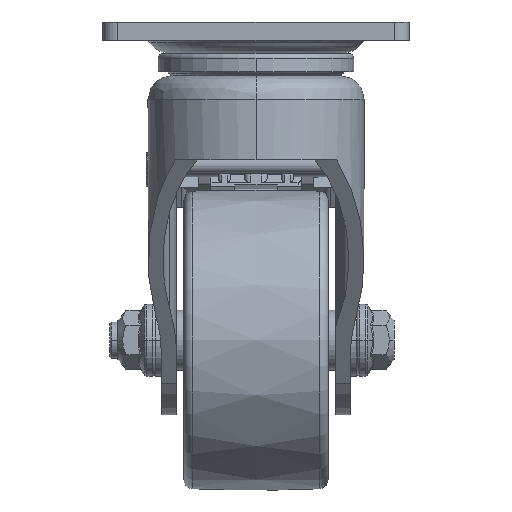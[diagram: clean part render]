
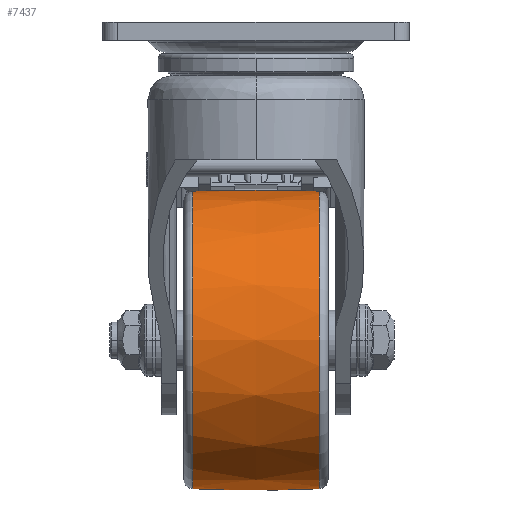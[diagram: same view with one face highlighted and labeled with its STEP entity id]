
A CAD part, left-side view. The second image highlights one B-rep face of the part: STEP entity #7437.
In plain terms, the highlighted free-form (B-spline) face has degree [2, 2] with [3, 9] control points.
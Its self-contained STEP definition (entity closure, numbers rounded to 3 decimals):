
#7364=CARTESIAN_POINT('',(101.278,-34.048,1.127));
#7365=CARTESIAN_POINT('',(101.278,-34.942,-20.));
#7366=CARTESIAN_POINT('',(101.278,-34.048,-41.127));
#7367=CARTESIAN_POINT('',(150.831,-34.048,1.127));
#7368=CARTESIAN_POINT('',(151.725,-34.942,-20.));
#7369=CARTESIAN_POINT('',(150.831,-34.048,-41.127));
#7370=CARTESIAN_POINT('',(150.831,15.505,1.127));
#7371=CARTESIAN_POINT('',(151.725,15.505,-20.));
#7372=CARTESIAN_POINT('',(150.831,15.505,-41.127));
#7373=CARTESIAN_POINT('',(150.831,65.059,1.127));
#7374=CARTESIAN_POINT('',(151.725,65.952,-20.));
#7375=CARTESIAN_POINT('',(150.831,65.059,-41.127));
#7376=CARTESIAN_POINT('',(101.278,65.059,1.127));
#7377=CARTESIAN_POINT('',(101.278,65.952,-20.));
#7378=CARTESIAN_POINT('',(101.278,65.059,-41.127));
#7379=CARTESIAN_POINT('',(51.724,65.059,1.127));
#7380=CARTESIAN_POINT('',(50.831,65.952,-20.));
#7381=CARTESIAN_POINT('',(51.724,65.059,-41.127));
#7382=CARTESIAN_POINT('',(51.724,15.505,1.127));
#7383=CARTESIAN_POINT('',(50.831,15.505,-20.));
#7384=CARTESIAN_POINT('',(51.724,15.505,-41.127));
#7385=CARTESIAN_POINT('',(51.724,-34.048,1.127));
#7386=CARTESIAN_POINT('',(50.831,-34.942,-20.));
#7387=CARTESIAN_POINT('',(51.724,-34.048,-41.127));
#7388=CARTESIAN_POINT('',(101.278,-34.048,1.127));
#7389=CARTESIAN_POINT('',(101.278,-34.942,-20.));
#7390=CARTESIAN_POINT('',(101.278,-34.048,-41.127));
#7398=(BOUNDED_SURFACE()B_SPLINE_SURFACE(2,2,((#7364,#7367,#7370,#7373,#7376,#7379,#7382,#7385,#7388),(#7365,#7368,#7371,#7374,#7377,#7380,#7383,#7386,#7389),(#7366,#7369,#7372,#7375,#7378,#7381,#7384,#7387,#7390)),.UNSPECIFIED.,.F.,.T.,.U.)B_SPLINE_SURFACE_WITH_KNOTS((3,3),(3,2,2,2,3),(-0.042,0.042),(0.0,1.571,3.142,4.712,6.283),.UNSPECIFIED.)GEOMETRIC_REPRESENTATION_ITEM()RATIONAL_B_SPLINE_SURFACE(((1.0,0.707,1.0,0.707,1.0,0.707,1.0,0.707,1.0),(0.999,0.706,0.999,0.706,0.999,0.706,0.999,0.706,0.999),(1.0,0.707,1.0,0.707,1.0,0.707,1.0,0.707,1.0)))REPRESENTATION_ITEM('')SURFACE());
#7399=CARTESIAN_POINT('',(101.278,65.059,-41.127));
#7400=VERTEX_POINT('',#7399);
#7401=CARTESIAN_POINT('',(101.278,65.059,1.127));
#7402=VERTEX_POINT('',#7401);
#7403=CARTESIAN_POINT('',(101.278,-434.495,-20.));
#7404=DIRECTION('',(1.0,0.0,0.0));
#7405=DIRECTION('',(0.0,1.0,0.0));
#7406=AXIS2_PLACEMENT_3D('',#7403,#7404,#7405);
#7407=CIRCLE('',#7406,500.0);
#7408=EDGE_CURVE('',#7400,#7402,#7407,.T.);
#7409=ORIENTED_EDGE('',*,*,#7408,.F.);
#7410=CARTESIAN_POINT('',(101.278,-34.048,-41.127));
#7411=VERTEX_POINT('',#7410);
#7412=CARTESIAN_POINT('',(101.278,15.505,-41.127));
#7413=DIRECTION('',(0.0,0.0,-1.0));
#7414=DIRECTION('',(0.0,1.0,0.0));
#7415=AXIS2_PLACEMENT_3D('',#7412,#7413,#7414);
#7416=CIRCLE('',#7415,49.553);
#7417=EDGE_CURVE('',#7411,#7400,#7416,.T.);
#7418=ORIENTED_EDGE('',*,*,#7417,.F.);
#7419=CARTESIAN_POINT('',(101.278,-34.048,1.127));
#7420=VERTEX_POINT('',#7419);
#7421=CARTESIAN_POINT('',(101.278,465.505,-20.));
#7422=DIRECTION('',(-1.0,0.0,0.0));
#7423=DIRECTION('',(0.0,-1.0,0.0));
#7424=AXIS2_PLACEMENT_3D('',#7421,#7422,#7423);
#7425=CIRCLE('',#7424,500.0);
#7426=EDGE_CURVE('',#7411,#7420,#7425,.T.);
#7427=ORIENTED_EDGE('',*,*,#7426,.T.);
#7428=CARTESIAN_POINT('',(101.278,15.505,1.127));
#7429=DIRECTION('',(0.0,0.0,-1.0));
#7430=DIRECTION('',(0.0,1.0,0.0));
#7431=AXIS2_PLACEMENT_3D('',#7428,#7429,#7430);
#7432=CIRCLE('',#7431,49.553);
#7433=EDGE_CURVE('',#7420,#7402,#7432,.T.);
#7434=ORIENTED_EDGE('',*,*,#7433,.T.);
#7435=EDGE_LOOP('',(#7409,#7418,#7427,#7434));
#7436=FACE_OUTER_BOUND('',#7435,.T.);
#7437=ADVANCED_FACE('',(#7436),#7398,.T.);
